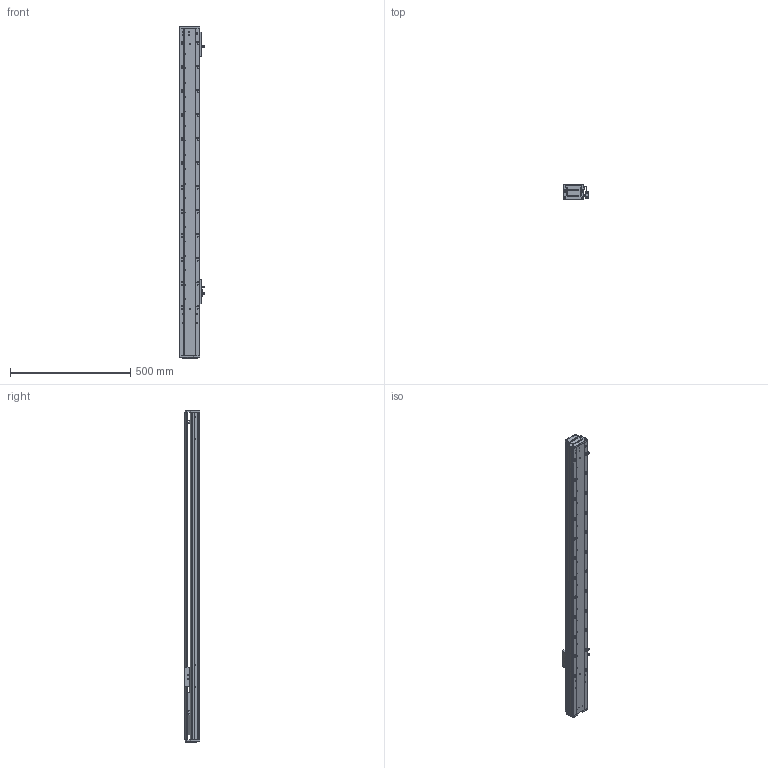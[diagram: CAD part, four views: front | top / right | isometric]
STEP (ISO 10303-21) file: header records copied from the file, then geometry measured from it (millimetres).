
FILE_DESCRIPTION (( 'STEP AP203' ), '1' );
FILE_NAME ('RY80-L1620-950-IK.SLDASM_1000.step', '2021-02-22T05:32:47', ( '盈信电脑' ), ( '东莞市道滘镇水果街19号' ), 'SwSTEP 2.0', 'SolidWorks 2012', '' );
FILE_SCHEMA (( 'CONFIG_CONTROL_DESIGN' ));
Products named in the file (14): 滅袉蝶18-10; 672嫖萇羲壽假蚾釱; 覜茼ん672; RY80俋离覜茼え; 滅袉蝶18-24; RY80囀离ヶ啣; RY80-L1620-950-IK.SLDASM_1000; RY80囀离萇儂啣; 侂狟100W; RY80臏賑輸; RY80綴裔啣; RY80萇儂傷盓傅釱; RY80-950倰第奻裔啣-IK_1000; RY80-950倰第菁釱-IK_1000
Assembly tree (16 placements, depth 2):
  RY80-L1620-950-IK.SLDASM_1000
    RY80-950倰第菁釱-IK_1000
    RY80臏賑輸
    RY80-950倰第奻裔啣-IK_1000
    RY80萇儂傷盓傅釱
    RY80綴裔啣
    滅袉蝶18-10
    672嫖萇羲壽假蚾釱  x2
    覜茼ん672  x3
    RY80俋离覜茼え
    侂狟100W
    RY80囀离萇儂啣
    RY80囀离ヶ啣
    滅袉蝶18-24
Bounding box: 103.7 x 65 x 1381 mm (x, y, z)
Volume: 2198755 mm3; surface area: 940169.8 mm2
Topology: 16 solids, 16 shells, 2285 faces, 6398 edges, 4175 vertices
Faces by surface type: plane 1314, cylinder 828, cone 99, bspline 44
Entity records: 74573 total; most frequent: CARTESIAN_POINT 20079, ORIENTED_EDGE 11516, DIRECTION 10199, EDGE_CURVE 5758, VERTEX_POINT 3791, LINE 3621, VECTOR 3621, AXIS2_PLACEMENT_3D 3289
